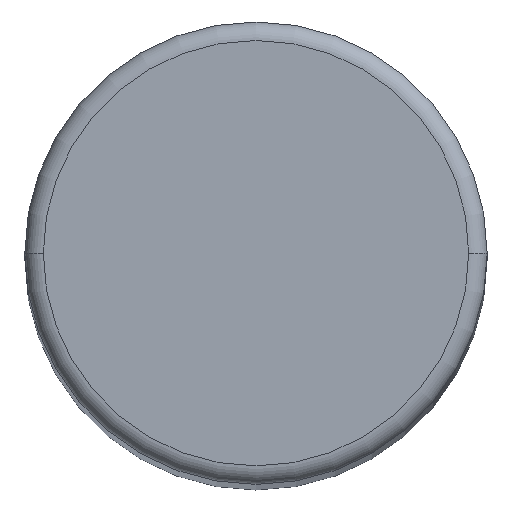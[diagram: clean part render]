
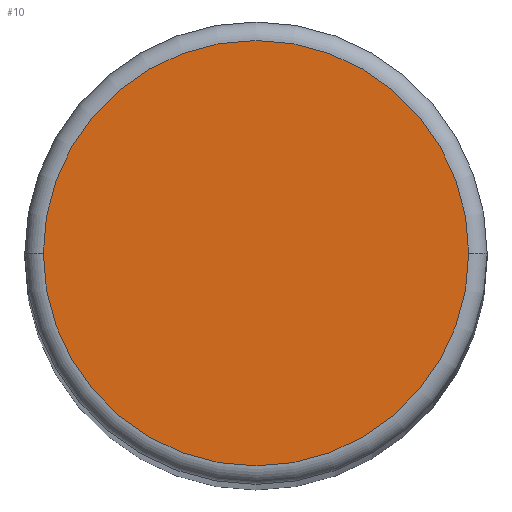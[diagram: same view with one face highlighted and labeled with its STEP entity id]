
A CAD part, top view. The second image highlights one B-rep face of the part: STEP entity #10.
In plain terms, the highlighted planar face has unit normal (0, 0, 1).
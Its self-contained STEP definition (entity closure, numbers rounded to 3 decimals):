
#5 = AXIS2_PLACEMENT_3D ( 'NONE', #35, #18, #117 ) ;
#10 = ADVANCED_FACE ( 'NONE', ( #246 ), #222, .T. ) ;
#16 = VERTEX_POINT ( 'NONE', #180 ) ;
#18 = DIRECTION ( 'NONE',  ( 0., 0., 1. ) ) ;
#26 = CIRCLE ( 'NONE', #81, 2.3 ) ;
#27 = CARTESIAN_POINT ( 'NONE',  ( 0., 0., 35. ) ) ;
#35 = CARTESIAN_POINT ( 'NONE',  ( 0., 0., 35. ) ) ;
#40 = EDGE_CURVE ( 'NONE', #16, #142, #139, .T. ) ;
#68 = DIRECTION ( 'NONE',  ( 1., 0., 0. ) ) ;
#71 = EDGE_CURVE ( 'NONE', #142, #16, #26, .T. ) ;
#80 = ORIENTED_EDGE ( 'NONE', *, *, #71, .T. ) ;
#81 = AXIS2_PLACEMENT_3D ( 'NONE', #107, #214, #106 ) ;
#84 = AXIS2_PLACEMENT_3D ( 'NONE', #27, #253, #68 ) ;
#106 = DIRECTION ( 'NONE',  ( 1., 0., 0. ) ) ;
#107 = CARTESIAN_POINT ( 'NONE',  ( 0., 0., 35. ) ) ;
#117 = DIRECTION ( 'NONE',  ( 1., 0., 0. ) ) ;
#139 = CIRCLE ( 'NONE', #84, 2.3 ) ;
#142 = VERTEX_POINT ( 'NONE', #196 ) ;
#160 = ORIENTED_EDGE ( 'NONE', *, *, #40, .T. ) ;
#180 = CARTESIAN_POINT ( 'NONE',  ( -2.3, 0., 35. ) ) ;
#196 = CARTESIAN_POINT ( 'NONE',  ( 2.3, 0., 35. ) ) ;
#209 = EDGE_LOOP ( 'NONE', ( #80, #160 ) ) ;
#214 = DIRECTION ( 'NONE',  ( 0., 0., 1. ) ) ;
#222 = PLANE ( 'NONE',  #5 ) ;
#246 = FACE_OUTER_BOUND ( 'NONE', #209, .T. ) ;
#253 = DIRECTION ( 'NONE',  ( 0., 0., 1. ) ) ;
